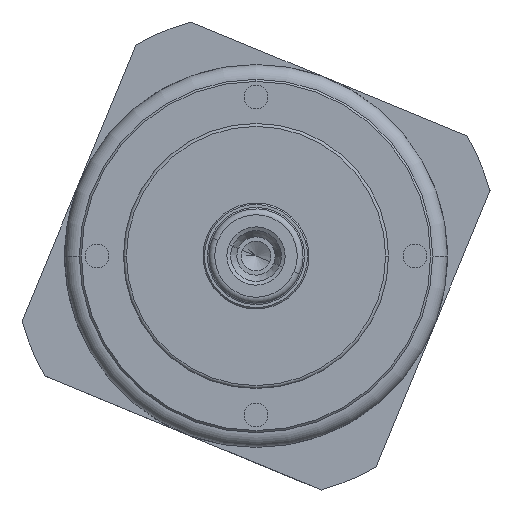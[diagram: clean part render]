
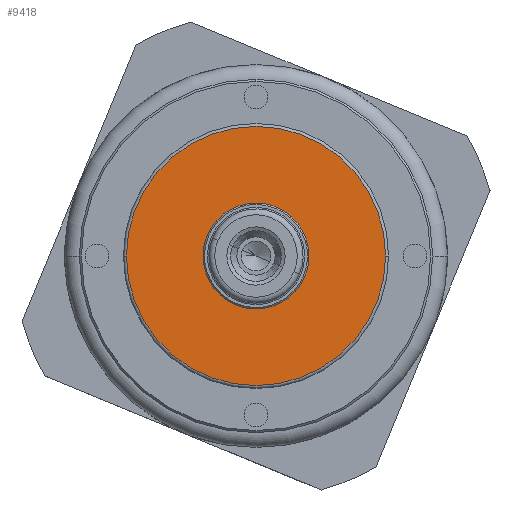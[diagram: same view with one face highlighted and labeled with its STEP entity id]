
A CAD part, front view. The second image highlights one B-rep face of the part: STEP entity #9418.
In plain terms, the highlighted planar face has unit normal (0, -1, 0).
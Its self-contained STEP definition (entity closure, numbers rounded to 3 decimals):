
#38 = PLANE ( 'NONE',  #6676 ) ;
#68 = DIRECTION ( 'NONE',  ( 0., 0., 1. ) ) ;
#312 = ORIENTED_EDGE ( 'NONE', *, *, #6993, .T. ) ;
#343 = AXIS2_PLACEMENT_3D ( 'NONE', #4095, #974, #6350 ) ;
#575 = ORIENTED_EDGE ( 'NONE', *, *, #9518, .T. ) ;
#679 = DIRECTION ( 'NONE',  ( 0., 1., 0. ) ) ;
#974 = DIRECTION ( 'NONE',  ( 0., -1., 0. ) ) ;
#1118 = FACE_BOUND ( 'NONE', #4051, .T. ) ;
#1340 = EDGE_CURVE ( 'NONE', #7422, #4538, #4599, .T. ) ;
#1415 = CARTESIAN_POINT ( 'NONE',  ( -9.646, -139.978, 100. ) ) ;
#1425 = VERTEX_POINT ( 'NONE', #6597 ) ;
#1426 = AXIS2_PLACEMENT_3D ( 'NONE', #4316, #7359, #7425 ) ;
#1688 = DIRECTION ( 'NONE',  ( -1., 0., 0. ) ) ;
#2584 = ORIENTED_EDGE ( 'NONE', *, *, #1340, .T. ) ;
#2918 = ORIENTED_EDGE ( 'NONE', *, *, #8764, .T. ) ;
#3259 = EDGE_LOOP ( 'NONE', ( #575, #312 ) ) ;
#3628 = CARTESIAN_POINT ( 'NONE',  ( 34.354, -139.978, 100. ) ) ;
#3789 = CARTESIAN_POINT ( 'NONE',  ( -9.646, -139.978, 104.044 ) ) ;
#3890 = CIRCLE ( 'NONE', #343, 44. ) ;
#3935 = VERTEX_POINT ( 'NONE', #3628 ) ;
#3966 = CARTESIAN_POINT ( 'NONE',  ( -9.646, -139.978, 95.956 ) ) ;
#4051 = EDGE_LOOP ( 'NONE', ( #2584, #2918 ) ) ;
#4095 = CARTESIAN_POINT ( 'NONE',  ( -9.646, -139.978, 100. ) ) ;
#4316 = CARTESIAN_POINT ( 'NONE',  ( -9.646, -139.978, 100. ) ) ;
#4360 = CIRCLE ( 'NONE', #1426, 4.044 ) ;
#4538 = VERTEX_POINT ( 'NONE', #3789 ) ;
#4599 = CIRCLE ( 'NONE', #8765, 4.044 ) ;
#5390 = CARTESIAN_POINT ( 'NONE',  ( -53.646, -139.978, 100. ) ) ;
#5475 = CIRCLE ( 'NONE', #6314, 44. ) ;
#6258 = CARTESIAN_POINT ( 'NONE',  ( -9.646, -139.978, 100. ) ) ;
#6314 = AXIS2_PLACEMENT_3D ( 'NONE', #6258, #9305, #1688 ) ;
#6350 = DIRECTION ( 'NONE',  ( -1., 0., 0. ) ) ;
#6597 = CARTESIAN_POINT ( 'NONE',  ( -53.646, -139.978, 100. ) ) ;
#6676 = AXIS2_PLACEMENT_3D ( 'NONE', #5390, #7739, #68 ) ;
#6715 = DIRECTION ( 'NONE',  ( 0., 0., -1. ) ) ;
#6967 = FACE_OUTER_BOUND ( 'NONE', #3259, .T. ) ;
#6993 = EDGE_CURVE ( 'NONE', #3935, #1425, #5475, .T. ) ;
#7359 = DIRECTION ( 'NONE',  ( 0., 1., 0. ) ) ;
#7422 = VERTEX_POINT ( 'NONE', #3966 ) ;
#7425 = DIRECTION ( 'NONE',  ( 0., 0., -1. ) ) ;
#7739 = DIRECTION ( 'NONE',  ( 0., -1., 0. ) ) ;
#8764 = EDGE_CURVE ( 'NONE', #4538, #7422, #4360, .T. ) ;
#8765 = AXIS2_PLACEMENT_3D ( 'NONE', #1415, #679, #6715 ) ;
#9305 = DIRECTION ( 'NONE',  ( 0., -1., 0. ) ) ;
#9418 = ADVANCED_FACE ( 'NONE', ( #1118, #6967 ), #38, .T. ) ;
#9518 = EDGE_CURVE ( 'NONE', #1425, #3935, #3890, .T. ) ;
